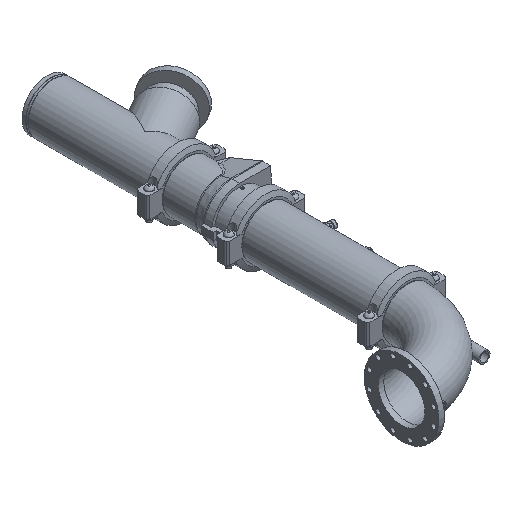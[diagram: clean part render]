
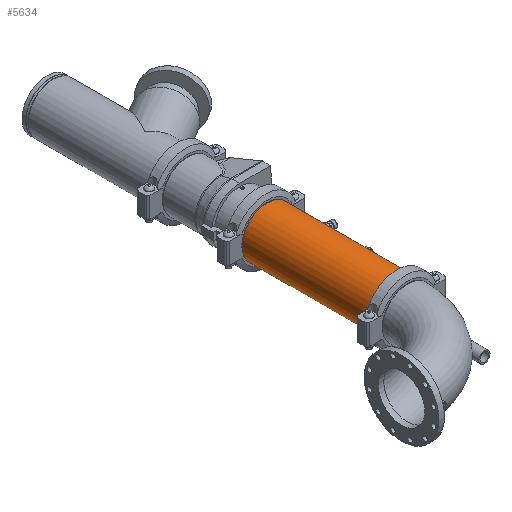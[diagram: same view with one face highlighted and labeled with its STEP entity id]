
A CAD part, isometric view. The second image highlights one B-rep face of the part: STEP entity #5634.
In plain terms, the highlighted cylindrical face has radius 136.525 mm (diameter 273.05 mm), a full revolution.
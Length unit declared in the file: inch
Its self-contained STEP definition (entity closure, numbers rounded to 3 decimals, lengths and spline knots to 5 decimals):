
#148=LINE('',#8602,#547);
#547=VECTOR('',#6843,5.375);
#946=CYLINDRICAL_SURFACE('',#6140,5.375);
#1151=FACE_OUTER_BOUND('',#1469,.T.);
#1469=EDGE_LOOP('',(#3557,#3558,#3559,#3560,#3561,#3562));
#1878=CIRCLE('',#6138,5.375);
#1879=CIRCLE('',#6139,5.375);
#1880=CIRCLE('',#6141,5.375);
#1881=CIRCLE('',#6142,5.375);
#2215=VERTEX_POINT('',#8593);
#2216=VERTEX_POINT('',#8594);
#2217=VERTEX_POINT('',#8598);
#2218=VERTEX_POINT('',#8599);
#2759=EDGE_CURVE('',#2215,#2216,#1878,.T.);
#2760=EDGE_CURVE('',#2216,#2215,#1879,.T.);
#2761=EDGE_CURVE('',#2217,#2218,#1880,.T.);
#2762=EDGE_CURVE('',#2218,#2217,#1881,.T.);
#2763=EDGE_CURVE('',#2218,#2216,#148,.T.);
#3557=ORIENTED_EDGE('',*,*,#2761,.F.);
#3558=ORIENTED_EDGE('',*,*,#2762,.F.);
#3559=ORIENTED_EDGE('',*,*,#2763,.T.);
#3560=ORIENTED_EDGE('',*,*,#2760,.T.);
#3561=ORIENTED_EDGE('',*,*,#2759,.T.);
#3562=ORIENTED_EDGE('',*,*,#2763,.F.);
#5634=ADVANCED_FACE('',(#1151),#946,.T.);
#6138=AXIS2_PLACEMENT_3D('',#8595,#6833,#6834);
#6139=AXIS2_PLACEMENT_3D('',#8596,#6835,#6836);
#6140=AXIS2_PLACEMENT_3D('',#8597,#6837,#6838);
#6141=AXIS2_PLACEMENT_3D('',#8600,#6839,#6840);
#6142=AXIS2_PLACEMENT_3D('',#8601,#6841,#6842);
#6833=DIRECTION('center_axis',(1.,0.,0.));
#6834=DIRECTION('ref_axis',(0.,0.,-1.));
#6835=DIRECTION('center_axis',(1.,0.,0.));
#6836=DIRECTION('ref_axis',(0.,0.,-1.));
#6837=DIRECTION('center_axis',(1.,0.,0.));
#6838=DIRECTION('ref_axis',(0.,1.,0.));
#6839=DIRECTION('center_axis',(1.,0.,0.));
#6840=DIRECTION('ref_axis',(0.,0.,-1.));
#6841=DIRECTION('center_axis',(1.,0.,0.));
#6842=DIRECTION('ref_axis',(0.,0.,-1.));
#6843=DIRECTION('',(-1.,0.,0.));
#8593=CARTESIAN_POINT('',(-13.77725,5.375,0.));
#8594=CARTESIAN_POINT('',(-13.77725,-5.375,0.));
#8595=CARTESIAN_POINT('Origin',(-13.77725,0.,0.));
#8596=CARTESIAN_POINT('Origin',(-13.77725,0.,0.));
#8597=CARTESIAN_POINT('Origin',(0.,0.,0.));
#8598=CARTESIAN_POINT('',(13.77725,5.375,0.));
#8599=CARTESIAN_POINT('',(13.77725,-5.375,0.));
#8600=CARTESIAN_POINT('Origin',(13.77725,0.,0.));
#8601=CARTESIAN_POINT('Origin',(13.77725,0.,0.));
#8602=CARTESIAN_POINT('',(0.,-5.375,0.));
